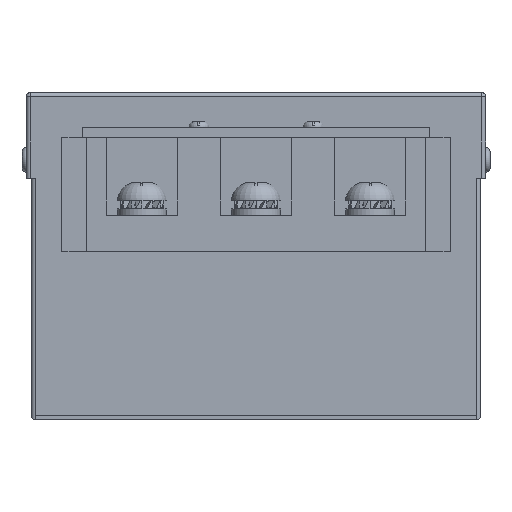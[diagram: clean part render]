
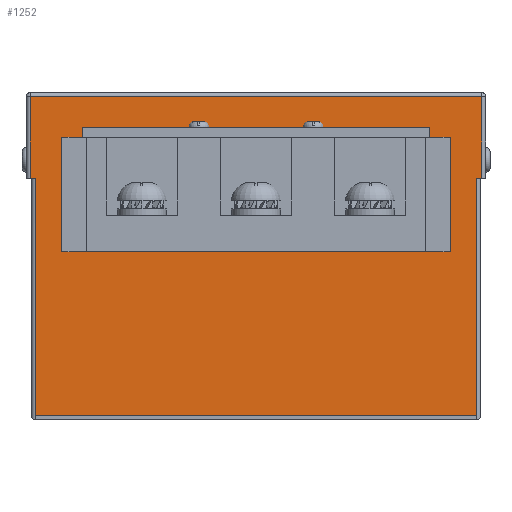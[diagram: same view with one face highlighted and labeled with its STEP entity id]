
A CAD part, left-side view. The second image highlights one B-rep face of the part: STEP entity #1252.
In plain terms, the highlighted planar face has unit normal (-1, 0, 0).
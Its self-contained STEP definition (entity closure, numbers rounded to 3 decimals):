
#1252=ADVANCED_FACE('',(#1660),#1662,.T.);
#1660=FACE_BOUND('',#1661,.T.);
#1661=EDGE_LOOP('',(#3200,#3201,#3202,#3203,#3204,#3205,#3206,#3207));
#1662=PLANE('',#1663);
#1663=AXIS2_PLACEMENT_3D('',#1664,#1665,#1666);
#1664=CARTESIAN_POINT('',(-85.,-54.,0.));
#1665=DIRECTION('',(-1.,0.,0.));
#1666=DIRECTION('',(0.,-1.,0.));
#3200=ORIENTED_EDGE('',*,*,#4172,.T.);
#3201=ORIENTED_EDGE('',*,*,#4138,.T.);
#3202=ORIENTED_EDGE('',*,*,#4173,.T.);
#3203=ORIENTED_EDGE('',*,*,#4174,.F.);
#3204=ORIENTED_EDGE('',*,*,#4175,.F.);
#3205=ORIENTED_EDGE('',*,*,#4123,.T.);
#3206=ORIENTED_EDGE('',*,*,#4170,.T.);
#3207=ORIENTED_EDGE('',*,*,#4176,.T.);
#4123=EDGE_CURVE('',#4675,#4672,#4676,.F.);
#4138=EDGE_CURVE('',#4700,#4698,#4701,.F.);
#4170=EDGE_CURVE('',#4672,#4748,#4749,.F.);
#4172=EDGE_CURVE('',#4751,#4700,#4752,.F.);
#4173=EDGE_CURVE('',#4698,#4753,#4754,.T.);
#4174=EDGE_CURVE('',#4755,#4753,#4756,.T.);
#4175=EDGE_CURVE('',#4675,#4755,#4757,.T.);
#4176=EDGE_CURVE('',#4748,#4751,#4758,.T.);
#4672=VERTEX_POINT('',#5634);
#4675=VERTEX_POINT('',#5640);
#4676=LINE('',#5641,#5642);
#4698=VERTEX_POINT('',#5698);
#4700=VERTEX_POINT('',#5703);
#4701=LINE('',#5704,#5705);
#4748=VERTEX_POINT('',#5820);
#4749=LINE('',#5821,#5822);
#4751=VERTEX_POINT('',#5827);
#4752=LINE('',#5828,#5829);
#4753=VERTEX_POINT('',#5831);
#4754=LINE('',#5832,#5833);
#4755=VERTEX_POINT('',#5835);
#4756=LINE('',#5836,#5837);
#4757=LINE('',#5839,#5840);
#4758=LINE('',#5842,#5843);
#5634=CARTESIAN_POINT('',(-85.,54.,59.));
#5640=CARTESIAN_POINT('',(-85.,55.25,59.));
#5641=CARTESIAN_POINT('',(-85.,54.,59.));
#5642=VECTOR('',#5643,1.);
#5643=DIRECTION('',(0.,1.,0.));
#5698=CARTESIAN_POINT('',(-85.,-55.25,59.));
#5703=CARTESIAN_POINT('',(-85.,-54.,59.));
#5704=CARTESIAN_POINT('',(-85.,-55.25,59.));
#5705=VECTOR('',#5706,1.);
#5706=DIRECTION('',(0.,1.,0.));
#5820=CARTESIAN_POINT('',(-85.,54.,1.));
#5821=CARTESIAN_POINT('',(-85.,54.,1.));
#5822=VECTOR('',#5823,1.);
#5823=DIRECTION('',(0.,0.,1.));
#5827=CARTESIAN_POINT('',(-85.,-54.,1.));
#5828=CARTESIAN_POINT('',(-85.,-54.,59.));
#5829=VECTOR('',#5830,1.);
#5830=DIRECTION('',(0.,0.,-1.));
#5831=CARTESIAN_POINT('',(-85.,-55.25,79.));
#5832=CARTESIAN_POINT('',(-85.,-55.25,59.));
#5833=VECTOR('',#5834,1.);
#5834=DIRECTION('',(0.,0.,1.));
#5835=CARTESIAN_POINT('',(-85.,55.25,79.));
#5836=CARTESIAN_POINT('',(-85.,55.25,79.));
#5837=VECTOR('',#5838,1.);
#5838=DIRECTION('',(0.,-1.,0.));
#5839=CARTESIAN_POINT('',(-85.,55.25,59.));
#5840=VECTOR('',#5841,1.);
#5841=DIRECTION('',(0.,0.,1.));
#5842=CARTESIAN_POINT('',(-85.,54.,1.));
#5843=VECTOR('',#5844,1.);
#5844=DIRECTION('',(0.,-1.,0.));
